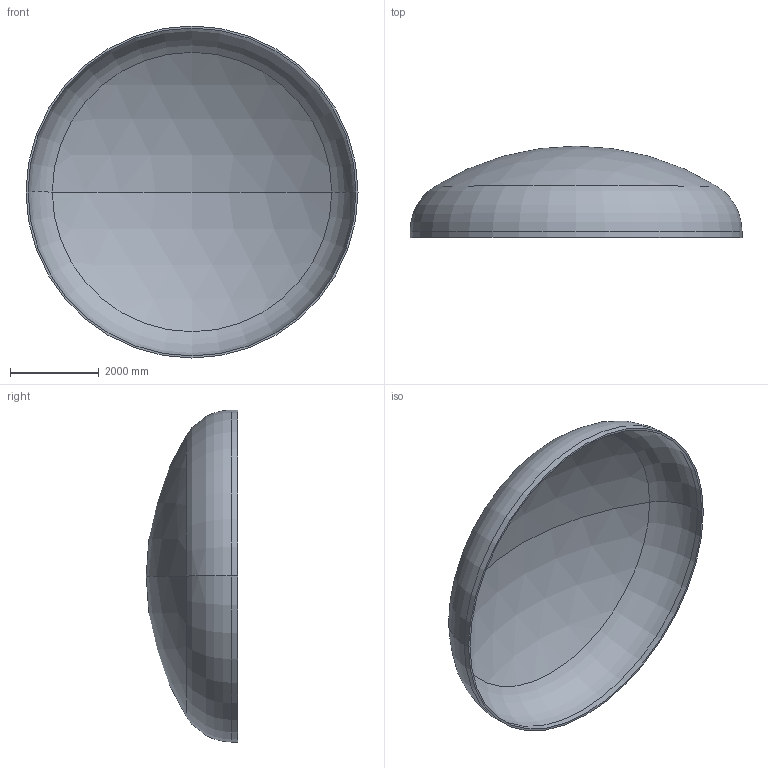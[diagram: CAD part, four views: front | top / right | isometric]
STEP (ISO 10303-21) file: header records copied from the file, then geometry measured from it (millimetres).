
FILE_DESCRIPTION (( 'STEP AP203' ), '1' );
FILE_NAME ('DIN 28013 Korbbogenform_-_Boden DIN 28013 - 7500 x 140 - I - s=46.step', '2016-07-04T10:54:18', ( '' ), ( '' ), 'SwSTEP 2.0', 'SolidWorks 2013', '' );
FILE_SCHEMA (( 'CONFIG_CONTROL_DESIGN' ));
Length unit declared in the file: millimetre
Products named in the file (1): DIN 28013 Korbbogenform_-_Boden DIN 28013 - 7500 x 140 - I - s=46
Bounding box: 7500 x 2065.73 x 7500 mm (x, y, z)
Volume: 2942728155.8 mm3; surface area: 129026286.2 mm2
Topology: 1 solids, 1 shells, 13 faces, 24 edges, 14 vertices
Faces by surface type: torus 4, cylinder 4, sphere 4, plane 1
Entity records: 407 total; most frequent: DIRECTION 72, CARTESIAN_POINT 52, ORIENTED_EDGE 48, AXIS2_PLACEMENT_3D 34, EDGE_CURVE 24, CIRCLE 20, EDGE_LOOP 14, VERTEX_POINT 14
